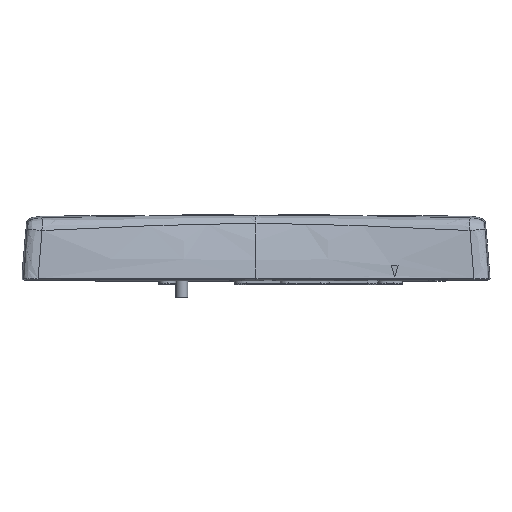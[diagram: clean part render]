
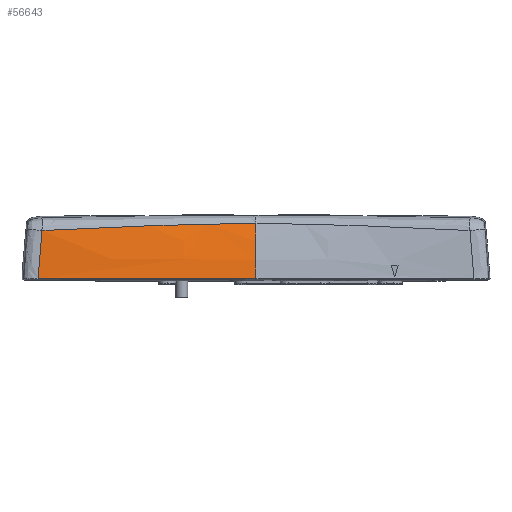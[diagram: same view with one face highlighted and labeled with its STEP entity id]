
A CAD part, top view. The second image highlights one B-rep face of the part: STEP entity #56643.
In plain terms, the highlighted free-form (B-spline) face has degree [3, 3] with [4, 4] control points.
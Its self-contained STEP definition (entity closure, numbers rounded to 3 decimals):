
#1028 = CARTESIAN_POINT ( 'NONE',  ( -87.949, 20.26, 31.052 ) ) ;
#1276 = CARTESIAN_POINT ( 'NONE',  ( -89.544, 0.531, 33.11 ) ) ;
#3636 = CARTESIAN_POINT ( 'NONE',  ( -88.654, 13.696, 32.039 ) ) ;
#4954 = B_SPLINE_SURFACE_WITH_KNOTS ( 'NONE', 3, 3, ( 
 ( #41195, #56455, #51549, #60982 ),
 ( #9206, #28107, #8604, #47200 ),
 ( #13780, #32490, #46572, #37655 ),
 ( #56660, #46363, #37446, #9008 ) ),
 .UNSPECIFIED., .F., .F., .F.,
 ( 4, 4 ),
 ( 4, 4 ),
 ( 0., 1. ),
 ( 0., 1. ),
 .UNSPECIFIED. ) ;
#6039 = CARTESIAN_POINT ( 'NONE',  ( -29.849, 0.565, 32.397 ) ) ;
#6731 = VERTEX_POINT ( 'NONE', #26501 ) ;
#8544 = VERTEX_POINT ( 'NONE', #30196 ) ;
#8604 = CARTESIAN_POINT ( 'NONE',  ( -64.094, 9.956, 31.873 ) ) ;
#9008 = CARTESIAN_POINT ( 'NONE',  ( -96.5, 31.12, 30.23 ) ) ;
#9141 = CARTESIAN_POINT ( 'NONE',  ( 0., 23.099, 25.796 ) ) ;
#9206 = CARTESIAN_POINT ( 'NONE',  ( 0., 9.486, 31.309 ) ) ;
#9466 = VERTEX_POINT ( 'NONE', #35513 ) ;
#9536 = ORIENTED_EDGE ( 'NONE', *, *, #43729, .T. ) ;
#9760 = CARTESIAN_POINT ( 'NONE',  ( -36.699, 22.465, 27.193 ) ) ;
#9962 = CARTESIAN_POINT ( 'NONE',  ( -58.668, 21.616, 28.838 ) ) ;
#13780 = CARTESIAN_POINT ( 'NONE',  ( 0., 18.667, 28.361 ) ) ;
#14721 = EDGE_CURVE ( 'NONE', #8544, #38762, #24908, .T. ) ;
#17906 = CARTESIAN_POINT ( 'NONE',  ( -89.186, 7.106, 32.701 ) ) ;
#19264 = CARTESIAN_POINT ( 'NONE',  ( -14.695, 23.009, 26.007 ) ) ;
#21335 = CARTESIAN_POINT ( 'NONE',  ( 0., 0.565, 32.402 ) ) ;
#22392 = FACE_OUTER_BOUND ( 'NONE', #60583, .T. ) ;
#24908 = B_SPLINE_CURVE_WITH_KNOTS ( 'NONE', 3,
 ( #60350, #3636, #17906, #58938 ),
 .UNSPECIFIED., .F., .F.,
 ( 4, 4 ),
 ( 0., 0.974 ),
 .UNSPECIFIED. ) ;
#25294 = CARTESIAN_POINT ( 'NONE',  ( 0., 15.983, 29.152 ) ) ;
#25342 = ORIENTED_EDGE ( 'NONE', *, *, #14721, .T. ) ;
#26111 = EDGE_CURVE ( 'NONE', #38762, #9466, #38120, .T. ) ;
#26501 = CARTESIAN_POINT ( 'NONE',  ( 0., 23.099, 25.796 ) ) ;
#28107 = CARTESIAN_POINT ( 'NONE',  ( -32.072, 9.486, 31.303 ) ) ;
#28637 = B_SPLINE_CURVE_WITH_KNOTS ( 'NONE', 3,
 ( #9141, #28666, #19264, #42963, #9760, #57199, #9962, #43153, #48959, #1028 ),
 .UNSPECIFIED., .F., .F.,
 ( 4, 2, 2, 2, 4 ),
 ( 0., 0.022, 0.044, 0.066, 0.088 ),
 .UNSPECIFIED. ) ;
#28666 = CARTESIAN_POINT ( 'NONE',  ( -7.352, 23.099, 25.795 ) ) ;
#29876 = CARTESIAN_POINT ( 'NONE',  ( 0., 23.099, 25.796 ) ) ;
#30196 = CARTESIAN_POINT ( 'NONE',  ( -87.949, 20.26, 31.052 ) ) ;
#32145 = EDGE_CURVE ( 'NONE', #9466, #6731, #35048, .T. ) ;
#32490 = CARTESIAN_POINT ( 'NONE',  ( -32.105, 18.667, 28.355 ) ) ;
#33479 = CARTESIAN_POINT ( 'NONE',  ( -89.544, 0.531, 33.11 ) ) ;
#33884 = CARTESIAN_POINT ( 'NONE',  ( -59.699, 0.547, 32.646 ) ) ;
#35048 = B_SPLINE_CURVE_WITH_KNOTS ( 'NONE', 3,
 ( #21335, #49157, #25294, #29876 ),
 .UNSPECIFIED., .F., .F.,
 ( 4, 4 ),
 ( 0.02, 0.845 ),
 .UNSPECIFIED. ) ;
#35513 = CARTESIAN_POINT ( 'NONE',  ( 0., 0.565, 32.402 ) ) ;
#37446 = CARTESIAN_POINT ( 'NONE',  ( -64.127, 29.089, 26.875 ) ) ;
#37655 = CARTESIAN_POINT ( 'NONE',  ( -96.5, 20.784, 31.698 ) ) ;
#38120 = B_SPLINE_CURVE_WITH_KNOTS ( 'NONE', 3,
 ( #1276, #33884, #6039, #43791 ),
 .UNSPECIFIED., .F., .F.,
 ( 4, 4 ),
 ( 0., 0.09 ),
 .UNSPECIFIED. ) ;
#38762 = VERTEX_POINT ( 'NONE', #33479 ) ;
#41195 = CARTESIAN_POINT ( 'NONE',  ( 0., 0., 32.474 ) ) ;
#41941 = ORIENTED_EDGE ( 'NONE', *, *, #32145, .T. ) ;
#42963 = CARTESIAN_POINT ( 'NONE',  ( -29.368, 22.692, 26.708 ) ) ;
#43153 = CARTESIAN_POINT ( 'NONE',  ( -73.308, 20.958, 29.973 ) ) ;
#43729 = EDGE_CURVE ( 'NONE', #6731, #8544, #28637, .T. ) ;
#43783 = ORIENTED_EDGE ( 'NONE', *, *, #26111, .T. ) ;
#43791 = CARTESIAN_POINT ( 'NONE',  ( 0., 0.565, 32.402 ) ) ;
#46363 = CARTESIAN_POINT ( 'NONE',  ( -32.138, 27.058, 23.78 ) ) ;
#46572 = CARTESIAN_POINT ( 'NONE',  ( -64.11, 19.726, 29.896 ) ) ;
#47200 = CARTESIAN_POINT ( 'NONE',  ( -96.5, 10.425, 32.704 ) ) ;
#48959 = CARTESIAN_POINT ( 'NONE',  ( -80.627, 20.611, 30.53 ) ) ;
#49157 = CARTESIAN_POINT ( 'NONE',  ( 0., 8.381, 31.383 ) ) ;
#51549 = CARTESIAN_POINT ( 'NONE',  ( -64.077, 0., 32.728 ) ) ;
#56455 = CARTESIAN_POINT ( 'NONE',  ( -32.039, 0., 32.468 ) ) ;
#56643 = ADVANCED_FACE ( 'NONE', ( #22392 ), #4954, .T. ) ;
#56660 = CARTESIAN_POINT ( 'NONE',  ( 0., 27.058, 23.786 ) ) ;
#57199 = CARTESIAN_POINT ( 'NONE',  ( -51.348, 21.927, 28.259 ) ) ;
#58938 = CARTESIAN_POINT ( 'NONE',  ( -89.544, 0.531, 33.11 ) ) ;
#60350 = CARTESIAN_POINT ( 'NONE',  ( -87.949, 20.26, 31.052 ) ) ;
#60583 = EDGE_LOOP ( 'NONE', ( #25342, #43783, #41941, #9536 ) ) ;
#60982 = CARTESIAN_POINT ( 'NONE',  ( -96.5, 0., 33.25 ) ) ;
